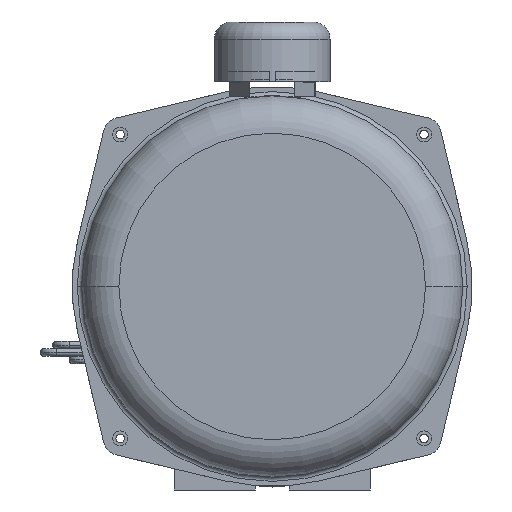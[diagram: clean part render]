
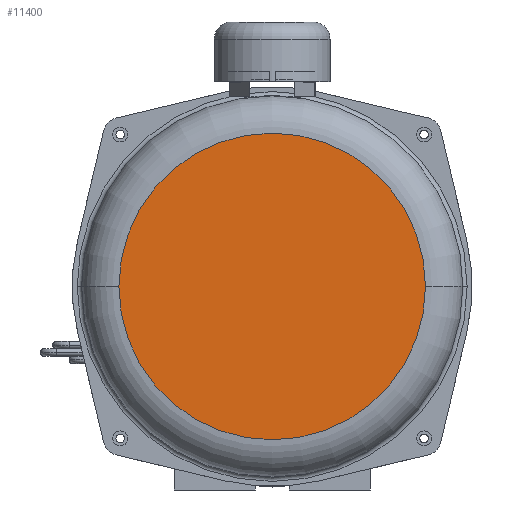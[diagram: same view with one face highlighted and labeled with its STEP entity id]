
A CAD part, front view. The second image highlights one B-rep face of the part: STEP entity #11400.
In plain terms, the highlighted planar face has unit normal (0, -1, 0).
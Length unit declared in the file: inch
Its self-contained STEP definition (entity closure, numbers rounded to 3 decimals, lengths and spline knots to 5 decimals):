
#10951=CARTESIAN_POINT('',(0.,-12.798,0.96999));
#10952=DIRECTION('',(0.,1.,0.));
#10953=DIRECTION('',(1.,0.,0.));
#10954=AXIS2_PLACEMENT_3D('',#10951,#10952,#10953);
#10956=CARTESIAN_POINT('',(0.,-12.798,0.96999));
#10957=DIRECTION('',(0.,-1.,0.));
#10958=DIRECTION('',(1.,0.,0.));
#10959=AXIS2_PLACEMENT_3D('',#10956,#10957,#10958);
#11291=CARTESIAN_POINT('',(2.2525,-12.798,0.96999));
#11293=VERTEX_POINT('',#11291);
#11295=CARTESIAN_POINT('',(-2.2525,-12.798,0.96999));
#11297=VERTEX_POINT('',#11295);
#11389=CARTESIAN_POINT('',(0.,-12.798,0.96999));
#11390=DIRECTION('',(0.,-1.,0.));
#11391=DIRECTION('',(-1.,0.,0.));
#11392=AXIS2_PLACEMENT_3D('',#11389,#11390,#11391);
#11393=PLANE('',#11392);
#11395=ORIENTED_EDGE('',*,*,#11394,.T.);
#11397=ORIENTED_EDGE('',*,*,#11396,.F.);
#11398=EDGE_LOOP('',(#11395,#11397));
#11399=FACE_OUTER_BOUND('',#11398,.F.);
#11400=ADVANCED_FACE('',(#11399),#11393,.T.);
#10955=CIRCLE('',#10954,2.2525);
#10960=CIRCLE('',#10959,2.2525);
#11394=EDGE_CURVE('',#11293,#11297,#10955,.T.);
#11396=EDGE_CURVE('',#11293,#11297,#10960,.T.);
